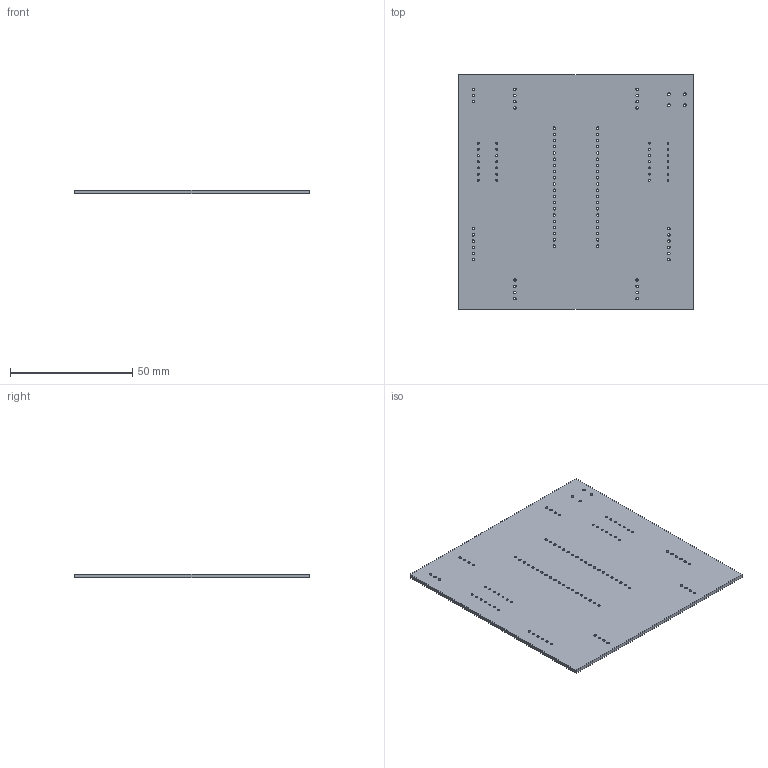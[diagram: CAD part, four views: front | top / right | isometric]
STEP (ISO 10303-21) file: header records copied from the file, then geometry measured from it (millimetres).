
FILE_DESCRIPTION(('KiCad electronic assembly'),'2;1');
FILE_NAME('carrier.step','2026-10-02T00:37:50',('Pcbnew'),('Kicad'), 'Open CASCADE STEP processor 7.9','KiCad to STEP converter','Unknown' );
FILE_SCHEMA(('AUTOMOTIVE_DESIGN { 1 0 10303 214 1 1 1 1 }'));
Length unit declared in the file: millimetre
Products named in the file (2): carrier 1; traction_carrier_PCB
Assembly tree (1 placements, depth 2):
  carrier 1
    traction_carrier_PCB
Bounding box: 96 x 96 x 1.51 mm (x, y, z)
Volume: 13805 mm3; surface area: 19328.5 mm2
Topology: 1 solids, 1 shells, 109 faces, 321 edges, 214 vertices
Faces by surface type: cylinder 103, plane 6
Full cylindrical faces by diameter (mm): 0.8 x28, 1 x71, 1.1 x4
Entity records: 4210 total; most frequent: DIRECTION 749, CARTESIAN_POINT 646, ORIENTED_EDGE 642, EDGE_CURVE 321, AXIS2_PLACEMENT_3D 317, FACE_BOUND 315, EDGE_LOOP 315, VERTEX_POINT 214
